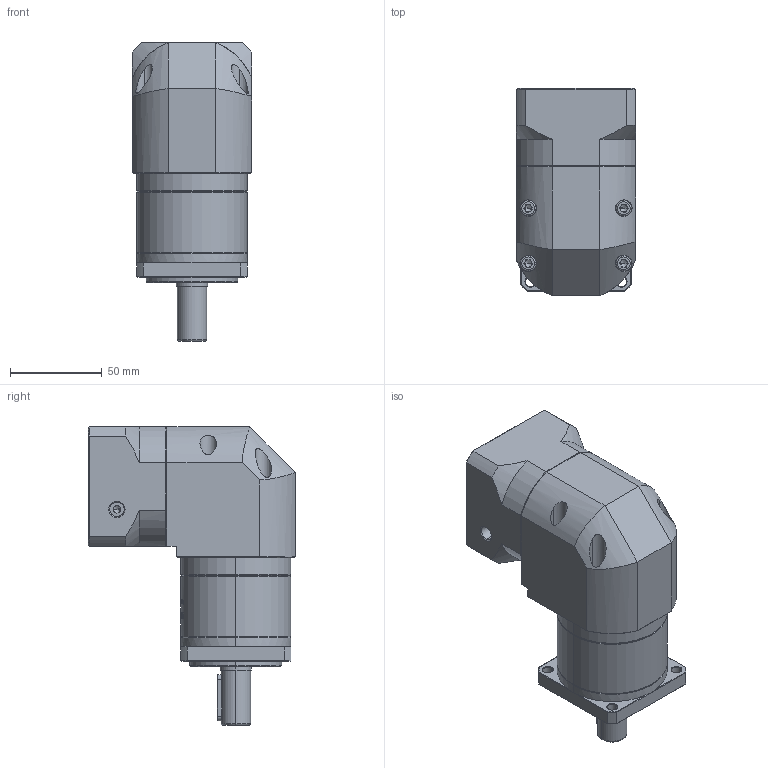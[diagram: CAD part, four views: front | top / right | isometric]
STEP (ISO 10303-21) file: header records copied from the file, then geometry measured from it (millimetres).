
FILE_DESCRIPTION (( 'STEP AP214' ), '1' );
FILE_NAME ('ZFR060-D16-L1-P2-11-60-75-M5.step', '2023-08-17T03:33:32', ( '' ), ( '' ), 'SwSTEP 2.0', 'SolidWorks 2016', '' );
FILE_SCHEMA (( 'AUTOMOTIVE_DESIGN' ));
Length unit declared in the file: millimetre
Products named in the file (1): ZFR060-D16-L1-P2-11-60-75-M5
Bounding box: 65 x 112.7 x 162.5 mm (x, y, z)
Volume: 553543.8 mm3; surface area: 80052.8 mm2
Topology: 5 solids, 6 shells, 1922 faces, 5125 edges, 3300 vertices
Faces by surface type: plane 847, cylinder 407, bspline 366, cone 290, torus 12
Entity records: 106790 total; most frequent: CARTESIAN_POINT 42036, ORIENTED_EDGE 10206, DIRECTION 7580, EDGE_CURVE 5103, VERTEX_POINT 3300, VECTOR 2614, LINE 2614, AXIS2_PLACEMENT_3D 2483
